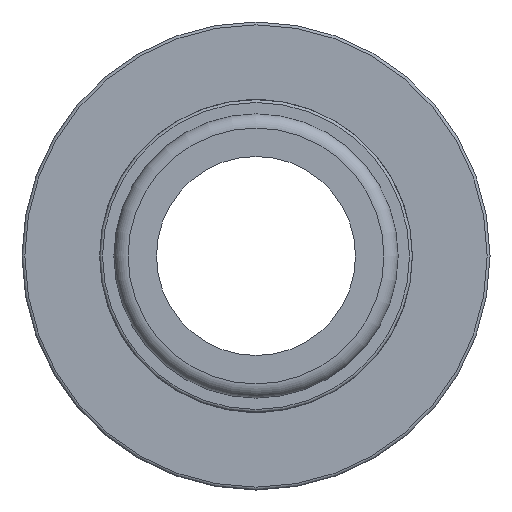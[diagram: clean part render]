
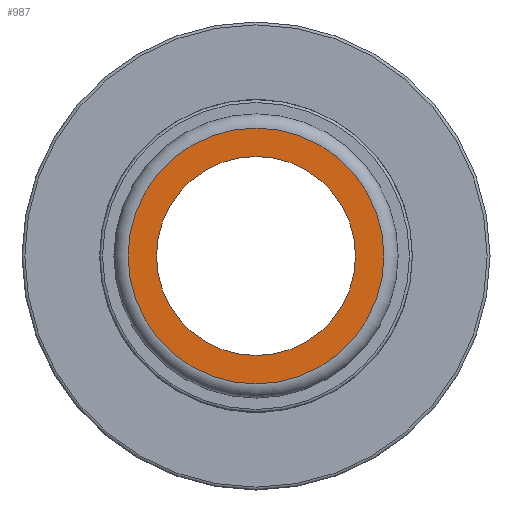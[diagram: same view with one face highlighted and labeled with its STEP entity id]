
A CAD part, left-side view. The second image highlights one B-rep face of the part: STEP entity #987.
In plain terms, the highlighted planar face has unit normal (-1, 0, 0).
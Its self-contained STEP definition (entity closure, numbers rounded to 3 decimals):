
#181=PLANE('',#1101);
#217=FACE_BOUND('',#343,.T.);
#273=FACE_OUTER_BOUND('',#342,.T.);
#342=EDGE_LOOP('',(#913));
#343=EDGE_LOOP('',(#914));
#402=CIRCLE('',#1099,18.86);
#404=CIRCLE('',#1102,14.669);
#500=VERTEX_POINT('',#1872);
#502=VERTEX_POINT('',#1877);
#640=EDGE_CURVE('',#500,#500,#402,.T.);
#642=EDGE_CURVE('',#502,#502,#404,.T.);
#913=ORIENTED_EDGE('',*,*,#640,.F.);
#914=ORIENTED_EDGE('',*,*,#642,.T.);
#987=ADVANCED_FACE('',(#273,#217),#181,.T.);
#1099=AXIS2_PLACEMENT_3D('',#1873,#1380,#1381);
#1101=AXIS2_PLACEMENT_3D('',#1876,#1384,#1385);
#1102=AXIS2_PLACEMENT_3D('',#1878,#1386,#1387);
#1380=DIRECTION('center_axis',(1.,0.,0.));
#1381=DIRECTION('ref_axis',(0.,-1.,0.));
#1384=DIRECTION('center_axis',(-1.,0.,0.));
#1385=DIRECTION('ref_axis',(0.,0.,1.));
#1386=DIRECTION('center_axis',(1.,0.,0.));
#1387=DIRECTION('ref_axis',(0.,0.,-1.));
#1872=CARTESIAN_POINT('',(-104.,18.859,0.));
#1873=CARTESIAN_POINT('Origin',(-104.,0.,0.));
#1876=CARTESIAN_POINT('Origin',(-104.,20.955,0.));
#1877=CARTESIAN_POINT('',(-104.,14.668,0.));
#1878=CARTESIAN_POINT('Origin',(-104.,0.,0.));
